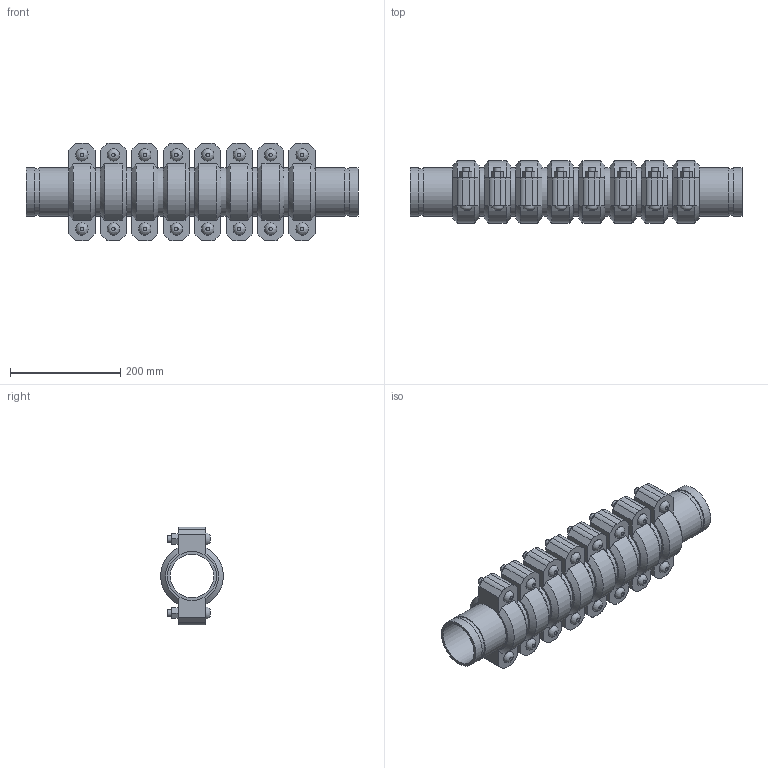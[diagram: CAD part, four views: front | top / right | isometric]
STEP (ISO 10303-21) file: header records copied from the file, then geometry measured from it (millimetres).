
FILE_DESCRIPTION(/* description */ ('VIC SS EXPANSION JOINT 8 COUPLINGS COMPRESSED STYLE 155P (OGS) (POTABLE WATER) ','CAx-IF Rec.Pracs.---Representation and Presentation of Product Manufacturing Information (PMI)---4.0---2014-10-13'),/* implementation_level */ '2;1');
FILE_NAME(/* name */ 'C:\Users\kkamble\AppData\Roaming\Autodesk\ApplicationPlugins\Victaulic.Temp\A39\Victaulic_SS_Expansion Joint_Compressed_8 Couplings_Style 155P (OGS)-Potable Water_8 Coup_Comp_3 (80).stp',/* time_stamp */ '2021-07-16T17:17:16+06:00',/* author */ ('kkamble'),/* organization */ ('Victaulic'),/* preprocessor_version */ 'ST-DEVELOPER v17.2',/* originating_system */ 'Autodesk Inventor 2019',/* authorisation */ '');
FILE_SCHEMA (('AP242_MANAGED_MODEL_BASED_3D_ENGINEERING_MIM_LF { 1 0 10303 442 1 1 4 }'));
Length unit declared in the file: inch
Products named in the file (4): 155P-03.0; Nipple-03.0; Nipple-03.0_1; 075-03.0
Assembly tree (17 placements, depth 2):
  155P-03.0
    Nipple-03.0  x2
    Nipple-03.0_1  x7
    075-03.0  x8
Bounding box: 603.25 x 113.88 x 177.8 mm (x, y, z)
Volume: 3341685.5 mm3; surface area: 834004.7 mm2
Topology: 17 solids, 33 shells, 532 faces, 1286 edges, 904 vertices
Faces by surface type: plane 326, cylinder 158, cone 32, bspline 16
Full cylindrical faces by diameter (mm): 12.7 x32, 14.605 x16, 79.35 x9, 84.938 x18, 88.9 x35
Entity records: 2737 total; most frequent: CARTESIAN_POINT 487, DIRECTION 459, ORIENTED_EDGE 374, EDGE_CURVE 187, AXIS2_PLACEMENT_3D 184, VERTEX_POINT 134, EDGE_LOOP 101, LINE 91
